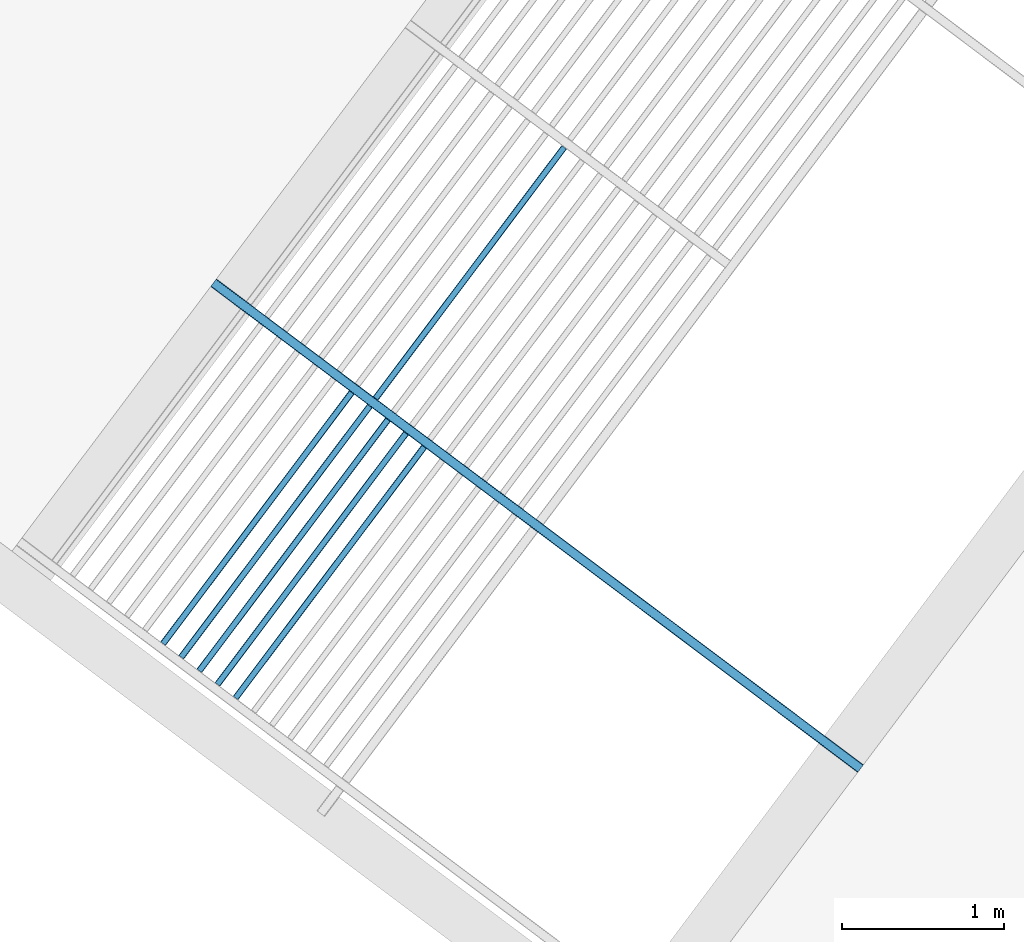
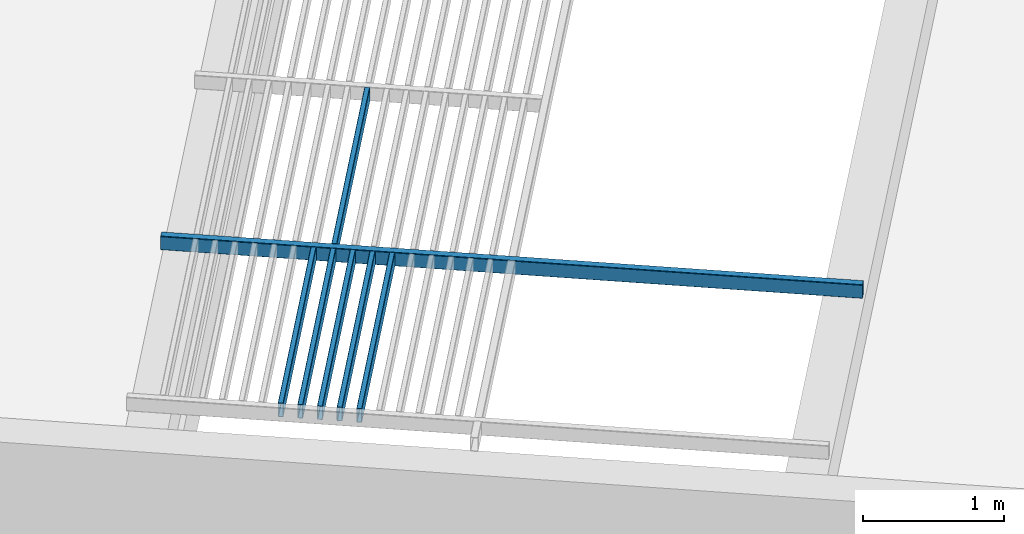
# One storey, part 50 of 95: 7 beams.
"""IFC2X3 building model written with IfcOpenShell, lengths in metres."""

from ifc_helpers import new_model, entity, si_unit, converted_unit, derived_unit, direction, frame, frame_2d, origin, place, context, subcontext, project, spatial, polyline, circle_curve, parameter, trimmed, segment, composite_curve, outline, extrude, material, type_object, element, save


model = new_model("IFC2X3")

# Units and contexts
model_context = context("Model", 3, precision=1e-05, world=origin(), true_north=direction((6.123031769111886e-17, 1.0)))
body_context = subcontext(model_context, "Body", "Model", "MODEL_VIEW")
ifc_project = project(units=[si_unit("LENGTHUNIT", "METRE"), si_unit("AREAUNIT", "SQUARE_METRE"), si_unit("VOLUMEUNIT", "CUBIC_METRE"), converted_unit("PLANEANGLEUNIT", "DEGREE", entity("IfcRatioMeasure", 0.017453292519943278), si_unit("PLANEANGLEUNIT", "RADIAN"), dimensions=[0, 0, 0, 0, 0, 0, 0]), si_unit("MASSUNIT", "GRAM", prefix="KILO"), derived_unit("MASSDENSITYUNIT", [(si_unit("MASSUNIT", "GRAM", prefix="KILO"), 1), (si_unit("LENGTHUNIT", "METRE"), -3)]), derived_unit("IONCONCENTRATIONUNIT", [(si_unit("MASSUNIT", "GRAM", prefix="KILO"), 1), (si_unit("LENGTHUNIT", "METRE"), -3)]), derived_unit("MOMENTOFINERTIAUNIT", [(si_unit("LENGTHUNIT", "METRE"), 4)]), si_unit("TIMEUNIT", "SECOND"), si_unit("FREQUENCYUNIT", "HERTZ"), si_unit("THERMODYNAMICTEMPERATUREUNIT", "DEGREE_CELSIUS"), derived_unit("THERMALTRANSMITTANCEUNIT", [(si_unit("MASSUNIT", "GRAM", prefix="KILO"), 1), (si_unit("THERMODYNAMICTEMPERATUREUNIT", "KELVIN"), -1), (si_unit("TIMEUNIT", "SECOND"), -3)]), derived_unit("THERMALCONDUCTANCEUNIT", [(si_unit("MASSUNIT", "GRAM", prefix="KILO"), 1), (si_unit("THERMODYNAMICTEMPERATUREUNIT", "KELVIN"), -1), (si_unit("TIMEUNIT", "SECOND"), -3), (si_unit("LENGTHUNIT", "METRE"), 1)]), derived_unit("VOLUMETRICFLOWRATEUNIT", [(si_unit("LENGTHUNIT", "METRE"), 3), (si_unit("TIMEUNIT", "SECOND"), -1)]), derived_unit("MASSFLOWRATEUNIT", [(si_unit("MASSUNIT", "GRAM", prefix="KILO"), 1), (si_unit("TIMEUNIT", "SECOND"), -1)]), derived_unit("ROTATIONALFREQUENCYUNIT", [(si_unit("TIMEUNIT", "SECOND"), -1)]), si_unit("ELECTRICCURRENTUNIT", "AMPERE"), si_unit("ELECTRICVOLTAGEUNIT", "VOLT"), si_unit("POWERUNIT", "WATT"), si_unit("FORCEUNIT", "NEWTON", prefix="KILO"), si_unit("ILLUMINANCEUNIT", "LUX"), si_unit("LUMINOUSFLUXUNIT", "LUMEN"), si_unit("LUMINOUSINTENSITYUNIT", "CANDELA"), derived_unit("USERDEFINED", [(si_unit("MASSUNIT", "GRAM", prefix="KILO"), -1), (si_unit("LENGTHUNIT", "METRE"), -2), (si_unit("TIMEUNIT", "SECOND"), 3), (si_unit("LUMINOUSFLUXUNIT", "LUMEN"), 1)]), derived_unit("USERDEFINED", [(si_unit("MASSUNIT", "GRAM", prefix="KILO"), 1), (si_unit("TIMEUNIT", "SECOND"), -3), (si_unit("LENGTHUNIT", "METRE"), 3), (si_unit("ELECTRICCURRENTUNIT", "AMPERE"), -2)]), derived_unit("SOUNDPOWERUNIT", [(si_unit("MASSUNIT", "GRAM", prefix="KILO"), 1), (si_unit("TIMEUNIT", "SECOND"), -3), (si_unit("LENGTHUNIT", "METRE"), 2)]), derived_unit("SOUNDPRESSUREUNIT", [(si_unit("MASSUNIT", "GRAM", prefix="KILO"), 1), (si_unit("LENGTHUNIT", "METRE"), -1), (si_unit("TIMEUNIT", "SECOND"), -2)]), derived_unit("LINEARVELOCITYUNIT", [(si_unit("LENGTHUNIT", "METRE"), 1), (si_unit("TIMEUNIT", "SECOND"), -1)]), si_unit("PRESSUREUNIT", "PASCAL"), derived_unit("USERDEFINED", [(si_unit("MASSUNIT", "GRAM", prefix="KILO"), 1), (si_unit("LENGTHUNIT", "METRE"), -2), (si_unit("TIMEUNIT", "SECOND"), -2)]), derived_unit("LINEARFORCEUNIT", [(si_unit("MASSUNIT", "GRAM", prefix="KILO"), 1), (si_unit("TIMEUNIT", "SECOND"), -2)]), derived_unit("PLANARFORCEUNIT", [(si_unit("MASSUNIT", "GRAM", prefix="KILO"), 1), (si_unit("LENGTHUNIT", "METRE"), -1), (si_unit("TIMEUNIT", "SECOND"), -2)]), derived_unit("SPECIFICHEATCAPACITYUNIT", [(si_unit("THERMODYNAMICTEMPERATUREUNIT", "KELVIN"), -1), (si_unit("LENGTHUNIT", "METRE"), 2), (si_unit("TIMEUNIT", "SECOND"), -2)]), derived_unit("HEATINGVALUEUNIT", [(si_unit("LENGTHUNIT", "METRE"), 2), (si_unit("TIMEUNIT", "SECOND"), -2)]), derived_unit("VAPORPERMEABILITYUNIT", [(si_unit("LENGTHUNIT", "METRE"), -1), (si_unit("TIMEUNIT", "SECOND"), 1)]), derived_unit("DYNAMICVISCOSITYUNIT", [(si_unit("MASSUNIT", "GRAM", prefix="KILO"), 1), (si_unit("TIMEUNIT", "SECOND"), -1), (si_unit("LENGTHUNIT", "METRE"), -1)]), derived_unit("THERMALEXPANSIONCOEFFICIENTUNIT", [(si_unit("THERMODYNAMICTEMPERATUREUNIT", "KELVIN"), -1)]), derived_unit("MODULUSOFELASTICITYUNIT", [(si_unit("MASSUNIT", "GRAM", prefix="KILO"), 1), (si_unit("LENGTHUNIT", "METRE"), -1), (si_unit("TIMEUNIT", "SECOND"), -2)]), derived_unit("ISOTHERMALMOISTURECAPACITYUNIT", [(si_unit("LENGTHUNIT", "METRE"), 3), (si_unit("MASSUNIT", "GRAM", prefix="KILO"), -1)]), derived_unit("MOISTUREDIFFUSIVITYUNIT", [(si_unit("TIMEUNIT", "SECOND"), -1), (si_unit("LENGTHUNIT", "METRE"), 2)])], contexts=[model_context])

# Site, building, storey
site_placement = place(None, origin())
site = spatial("IfcSite", under=ifc_project, at=site_placement, Name="Default", CompositionType="ELEMENT")
building_placement = place(site_placement, frame((0.0, 0.0, 235.0), z_axis=(0.0, 0.0, 1.0), x_axis=(-0.7996477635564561, 0.6004693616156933, 0.0)))
building = spatial("IfcBuilding", under=site, at=building_placement, CompositionType="ELEMENT")
storey_placement = place(building_placement, frame((0.0, 0.0, 3.400000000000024)))
storey = spatial("IfcBuildingStorey", under=building, at=storey_placement, Name="PC- Coberta STR", CompositionType="ELEMENT", Elevation=3.400000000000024)

# Beams
ifc_material = material(Name="_Acer- STR")
beam_type_1 = type_object("IfcBeamType", Name="STR- V- Acer- RHS- Rectangular- T1:120x60RHS", PredefinedType="NOTDEFINED")
beam_1_placement = place(storey_placement, frame((61.745147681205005, -20.44678703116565, 0.49840472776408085), z_axis=(0.0, 0.0, 1.0), x_axis=(-1.0, 0.0, 0.0)))
element("IfcBeam", 1, at=beam_1_placement, inside=storey, type_object=beam_type_1, material=ifc_material, Name="STR- V- Acer- RHS- Rectangular- T1:120x60RHS", ObjectType="STR- V- Acer- RHS- Rectangular- T1:120x60RHS", context=body_context, shape_type="SweptSolid", body=[
    extrude(outline(composite_curve([segment(trimmed(circle_curve(frame_2d((-0.02199999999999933, -0.05200000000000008), x_axis=(1.0, 0.0)), 0.008), [parameter(180.0000000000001)], [parameter(269.99999999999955)], True, "PARAMETER"), True, "CONTINUOUS"), segment(polyline([(-0.022000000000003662, -0.05999999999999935), (0.021999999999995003, -0.05999999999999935)]), True, "CONTINUOUS"), segment(trimmed(circle_curve(frame_2d((0.021999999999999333, -0.05200000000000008), x_axis=(1.0, 0.0)), 0.008), [parameter(269.99999999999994)], [parameter(5.088887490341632e-14)], True, "PARAMETER"), True, "CONTINUOUS"), segment(polyline([(0.029999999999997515, -0.05199999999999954), (0.029999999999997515, 0.052000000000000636)]), True, "CONTINUOUS"), segment(trimmed(circle_curve(frame_2d((0.021999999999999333, 0.052000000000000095), x_axis=(1.0, 0.0)), 0.008), [parameter(359.99999999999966)], [parameter(89.99999999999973)], True, "PARAMETER"), True, "CONTINUOUS"), segment(polyline([(0.021999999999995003, 0.06000000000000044), (-0.022000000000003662, 0.06000000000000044)]), True, "CONTINUOUS"), segment(trimmed(circle_curve(frame_2d((-0.02199999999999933, 0.052000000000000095), x_axis=(1.0, 0.0)), 0.008), [parameter(90.00000000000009)], [parameter(180.00000000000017)], True, "PARAMETER"), True, "CONTINUOUS"), segment(polyline([(-0.03000000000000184, 0.052000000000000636), (-0.03000000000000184, -0.05199999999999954)]), True, "CONTINUOUS")], self_intersect=False), holes=[composite_curve([segment(polyline([(0.021999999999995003, -0.056000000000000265), (-0.022000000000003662, -0.056000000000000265)]), True, "CONTINUOUS"), segment(trimmed(circle_curve(frame_2d((-0.02199999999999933, -0.05200000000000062), x_axis=(1.0, 0.0)), 0.004), [parameter(179.99999999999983)], [parameter(269.9999999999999)], True, "PARAMETER"), False, "CONTINUOUS"), segment(polyline([(-0.02600000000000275, -0.05200000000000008), (-0.02600000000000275, 0.051999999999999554)]), True, "CONTINUOUS"), segment(trimmed(circle_curve(frame_2d((-0.02199999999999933, 0.05199999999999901), x_axis=(1.0, 0.0)), 0.004), [parameter(90.00000000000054)], [parameter(180.00000000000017)], True, "PARAMETER"), False, "CONTINUOUS"), segment(polyline([(-0.022000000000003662, 0.055999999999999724), (0.021999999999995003, 0.055999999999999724)]), True, "CONTINUOUS"), segment(trimmed(circle_curve(frame_2d((0.021999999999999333, 0.05199999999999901), x_axis=(1.0, 0.0)), 0.004), [parameter(0.0)], [parameter(90.00000000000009)], True, "PARAMETER"), False, "CONTINUOUS"), segment(polyline([(0.02599999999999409, 0.051999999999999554), (0.02599999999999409, -0.05200000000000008)]), True, "CONTINUOUS"), segment(trimmed(circle_curve(frame_2d((0.021999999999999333, -0.05200000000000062), x_axis=(1.0, 0.0)), 0.004), [parameter(270.00000000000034)], [parameter(3.5622212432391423e-13)], True, "PARAMETER"), False, "CONTINUOUS")], self_intersect=False)]), frame((-5.0, -0.03159527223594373, 0.061595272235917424), z_axis=(1.0, 0.0, 0.0), x_axis=(0.0, -1.0, 0.0)), (0.0, 0.0, 1.0), 5.000000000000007),
])
beam_type_2 = type_object("IfcBeamType", Name="STR- V- Acer- RHS- Rectangular- T1:120x40RHS -", PredefinedType="NOTDEFINED")
beam_2_placement = place(storey_placement, frame((65.49355240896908, -22.38519175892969, 0.4984047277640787), z_axis=(0.0, 0.0, 1.0), x_axis=(0.0, -1.0, 0.0)))
element("IfcBeam", 2, at=beam_2_placement, inside=storey, type_object=beam_type_2, material=ifc_material, Name="STR- V- Acer- RHS- Rectangular- T1:120x40RHS -", ObjectType="STR- V- Acer- RHS- Rectangular- T1:120x40RHS -", context=body_context, shape_type="SweptSolid", body=[
    extrude(outline(composite_curve([segment(trimmed(circle_curve(frame_2d((-0.014000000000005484, -0.053999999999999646), x_axis=(1.0, 0.0)), 0.006), [parameter(180.0000000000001)], [parameter(269.99999999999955)], True, "PARAMETER"), True, "CONTINUOUS"), segment(polyline([(-0.014000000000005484, -0.0599999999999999), (0.013999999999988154, -0.0599999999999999)]), True, "CONTINUOUS"), segment(trimmed(circle_curve(frame_2d((0.013999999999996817, -0.053999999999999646), x_axis=(1.0, 0.0)), 0.006), [parameter(269.99999999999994)], [parameter(1.0177774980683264e-13)], True, "PARAMETER"), True, "CONTINUOUS"), segment(polyline([(0.019999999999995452, -0.053999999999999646), (0.019999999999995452, 0.05400000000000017)]), True, "CONTINUOUS"), segment(trimmed(circle_curve(frame_2d((0.013999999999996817, 0.05400000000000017), x_axis=(1.0, 0.0)), 0.006), [parameter(359.9999999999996)], [parameter(89.99999999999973)], True, "PARAMETER"), True, "CONTINUOUS"), segment(polyline([(0.013999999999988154, 0.059999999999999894), (-0.014000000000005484, 0.059999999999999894)]), True, "CONTINUOUS"), segment(trimmed(circle_curve(frame_2d((-0.014000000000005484, 0.05400000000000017), x_axis=(1.0, 0.0)), 0.006), [parameter(90.00000000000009)], [parameter(180.00000000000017)], True, "PARAMETER"), True, "CONTINUOUS"), segment(polyline([(-0.020000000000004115, 0.05400000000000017), (-0.020000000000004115, -0.05400000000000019)]), True, "CONTINUOUS")], self_intersect=False), holes=[composite_curve([segment(polyline([(0.013999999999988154, -0.05700000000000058), (-0.014000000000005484, -0.05700000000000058)]), True, "CONTINUOUS"), segment(trimmed(circle_curve(frame_2d((-0.014000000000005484, -0.05400000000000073), x_axis=(1.0, 0.0)), 0.003), [parameter(179.99999999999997)], [parameter(269.9999999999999)], True, "PARAMETER"), False, "CONTINUOUS"), segment(polyline([(-0.0170000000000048, -0.05400000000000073), (-0.0170000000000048, 0.05399999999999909)]), True, "CONTINUOUS"), segment(trimmed(circle_curve(frame_2d((-0.014000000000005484, 0.05399999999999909), x_axis=(1.0, 0.0)), 0.003), [parameter(90.00000000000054)], [parameter(180.0000000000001)], True, "PARAMETER"), False, "CONTINUOUS"), segment(polyline([(-0.014000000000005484, 0.056999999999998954), (0.013999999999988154, 0.056999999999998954)]), True, "CONTINUOUS"), segment(trimmed(circle_curve(frame_2d((0.013999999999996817, 0.05399999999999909), x_axis=(1.0, 0.0)), 0.003), [parameter(0.0)], [parameter(90.00000000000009)], True, "PARAMETER"), False, "CONTINUOUS"), segment(polyline([(0.016999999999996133, 0.05399999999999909), (0.016999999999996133, -0.05400000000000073)]), True, "CONTINUOUS"), segment(trimmed(circle_curve(frame_2d((0.013999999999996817, -0.05400000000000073), x_axis=(1.0, 0.0)), 0.003), [parameter(270.00000000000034)], [parameter(3.053332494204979e-13)], True, "PARAMETER"), False, "CONTINUOUS")], self_intersect=False)]), frame((-1.9399999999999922, 0.021595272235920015, 0.06159527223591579), z_axis=(1.0, 0.0, 0.0), x_axis=(0.0, -1.0, 0.0)), (0.0, 0.0, 1.0), 1.9399999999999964),
])
beam_3_placement = place(storey_placement, frame((65.63355240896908, -20.385189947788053, 0.4984047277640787), z_axis=(0.0, 0.0, 1.0), x_axis=(0.0, -1.0, 0.0)))
element("IfcBeam", 3, at=beam_3_placement, inside=storey, type_object=beam_type_2, material=ifc_material, Name="STR- V- Acer- RHS- Rectangular- T1:120x40RHS -", ObjectType="STR- V- Acer- RHS- Rectangular- T1:120x40RHS -", context=body_context, shape_type="SweptSolid", body=[
    extrude(outline(composite_curve([segment(trimmed(circle_curve(frame_2d((-0.01400000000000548, -0.053999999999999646), x_axis=(1.0, 0.0)), 0.006), [parameter(180.0000000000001)], [parameter(269.99999999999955)], True, "PARAMETER"), True, "CONTINUOUS"), segment(polyline([(-0.01400000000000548, -0.0599999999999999), (0.013999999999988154, -0.0599999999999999)]), True, "CONTINUOUS"), segment(trimmed(circle_curve(frame_2d((0.013999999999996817, -0.053999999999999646), x_axis=(1.0, 0.0)), 0.006), [parameter(269.99999999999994)], [parameter(1.0177774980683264e-13)], True, "PARAMETER"), True, "CONTINUOUS"), segment(polyline([(0.019999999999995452, -0.053999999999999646), (0.019999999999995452, 0.05400000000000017)]), True, "CONTINUOUS"), segment(trimmed(circle_curve(frame_2d((0.013999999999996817, 0.05400000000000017), x_axis=(1.0, 0.0)), 0.006), [parameter(359.9999999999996)], [parameter(89.99999999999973)], True, "PARAMETER"), True, "CONTINUOUS"), segment(polyline([(0.013999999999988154, 0.059999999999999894), (-0.01400000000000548, 0.059999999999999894)]), True, "CONTINUOUS"), segment(trimmed(circle_curve(frame_2d((-0.01400000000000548, 0.05400000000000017), x_axis=(1.0, 0.0)), 0.006), [parameter(90.00000000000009)], [parameter(180.00000000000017)], True, "PARAMETER"), True, "CONTINUOUS"), segment(polyline([(-0.02000000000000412, 0.05400000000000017), (-0.02000000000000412, -0.05400000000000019)]), True, "CONTINUOUS")], self_intersect=False), holes=[composite_curve([segment(polyline([(0.013999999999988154, -0.05700000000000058), (-0.01400000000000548, -0.05700000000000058)]), True, "CONTINUOUS"), segment(trimmed(circle_curve(frame_2d((-0.01400000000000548, -0.05400000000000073), x_axis=(1.0, 0.0)), 0.003), [parameter(179.99999999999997)], [parameter(269.9999999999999)], True, "PARAMETER"), False, "CONTINUOUS"), segment(polyline([(-0.017000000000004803, -0.05400000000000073), (-0.017000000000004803, 0.05399999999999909)]), True, "CONTINUOUS"), segment(trimmed(circle_curve(frame_2d((-0.01400000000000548, 0.05399999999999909), x_axis=(1.0, 0.0)), 0.003), [parameter(90.00000000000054)], [parameter(180.0000000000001)], True, "PARAMETER"), False, "CONTINUOUS"), segment(polyline([(-0.01400000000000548, 0.056999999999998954), (0.013999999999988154, 0.056999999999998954)]), True, "CONTINUOUS"), segment(trimmed(circle_curve(frame_2d((0.013999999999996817, 0.05399999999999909), x_axis=(1.0, 0.0)), 0.003), [parameter(0.0)], [parameter(90.00000000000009)], True, "PARAMETER"), False, "CONTINUOUS"), segment(polyline([(0.016999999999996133, 0.05399999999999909), (0.016999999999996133, -0.05400000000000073)]), True, "CONTINUOUS"), segment(trimmed(circle_curve(frame_2d((0.013999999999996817, -0.05400000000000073), x_axis=(1.0, 0.0)), 0.003), [parameter(270.00000000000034)], [parameter(3.053332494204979e-13)], True, "PARAMETER"), False, "CONTINUOUS")], self_intersect=False)]), frame((-1.940000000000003, 0.02159527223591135, 0.06159527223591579), z_axis=(1.0, 0.0, 0.0), x_axis=(0.0, -1.0, 0.0)), (0.0, 0.0, 1.0), 1.9400000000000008),
])
beam_4_placement = place(storey_placement, frame((65.49355240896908, -20.385189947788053, 0.4984047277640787), z_axis=(0.0, 0.0, 1.0), x_axis=(0.0, -1.0, 0.0)))
element("IfcBeam", 4, at=beam_4_placement, inside=storey, type_object=beam_type_2, material=ifc_material, Name="STR- V- Acer- RHS- Rectangular- T1:120x40RHS -", ObjectType="STR- V- Acer- RHS- Rectangular- T1:120x40RHS -", context=body_context, shape_type="SweptSolid", body=[
    extrude(outline(composite_curve([segment(trimmed(circle_curve(frame_2d((-0.014000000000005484, -0.053999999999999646), x_axis=(1.0, 0.0)), 0.006), [parameter(180.0000000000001)], [parameter(269.99999999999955)], True, "PARAMETER"), True, "CONTINUOUS"), segment(polyline([(-0.014000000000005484, -0.0599999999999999), (0.013999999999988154, -0.0599999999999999)]), True, "CONTINUOUS"), segment(trimmed(circle_curve(frame_2d((0.013999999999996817, -0.053999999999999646), x_axis=(1.0, 0.0)), 0.006), [parameter(269.99999999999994)], [parameter(1.0177774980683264e-13)], True, "PARAMETER"), True, "CONTINUOUS"), segment(polyline([(0.019999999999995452, -0.053999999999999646), (0.019999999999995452, 0.05400000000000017)]), True, "CONTINUOUS"), segment(trimmed(circle_curve(frame_2d((0.013999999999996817, 0.05400000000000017), x_axis=(1.0, 0.0)), 0.006), [parameter(359.9999999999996)], [parameter(89.99999999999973)], True, "PARAMETER"), True, "CONTINUOUS"), segment(polyline([(0.013999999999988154, 0.059999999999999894), (-0.014000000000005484, 0.059999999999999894)]), True, "CONTINUOUS"), segment(trimmed(circle_curve(frame_2d((-0.014000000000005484, 0.05400000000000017), x_axis=(1.0, 0.0)), 0.006), [parameter(90.00000000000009)], [parameter(180.00000000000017)], True, "PARAMETER"), True, "CONTINUOUS"), segment(polyline([(-0.020000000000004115, 0.05400000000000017), (-0.020000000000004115, -0.05400000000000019)]), True, "CONTINUOUS")], self_intersect=False), holes=[composite_curve([segment(polyline([(0.013999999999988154, -0.05700000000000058), (-0.014000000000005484, -0.05700000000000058)]), True, "CONTINUOUS"), segment(trimmed(circle_curve(frame_2d((-0.014000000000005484, -0.05400000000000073), x_axis=(1.0, 0.0)), 0.003), [parameter(179.99999999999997)], [parameter(269.9999999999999)], True, "PARAMETER"), False, "CONTINUOUS"), segment(polyline([(-0.0170000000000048, -0.05400000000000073), (-0.0170000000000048, 0.05399999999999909)]), True, "CONTINUOUS"), segment(trimmed(circle_curve(frame_2d((-0.014000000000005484, 0.05399999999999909), x_axis=(1.0, 0.0)), 0.003), [parameter(90.00000000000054)], [parameter(180.0000000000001)], True, "PARAMETER"), False, "CONTINUOUS"), segment(polyline([(-0.014000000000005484, 0.056999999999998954), (0.013999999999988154, 0.056999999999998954)]), True, "CONTINUOUS"), segment(trimmed(circle_curve(frame_2d((0.013999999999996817, 0.05399999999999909), x_axis=(1.0, 0.0)), 0.003), [parameter(0.0)], [parameter(90.00000000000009)], True, "PARAMETER"), False, "CONTINUOUS"), segment(polyline([(0.016999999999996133, 0.05399999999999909), (0.016999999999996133, -0.05400000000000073)]), True, "CONTINUOUS"), segment(trimmed(circle_curve(frame_2d((0.013999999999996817, -0.05400000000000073), x_axis=(1.0, 0.0)), 0.003), [parameter(270.00000000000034)], [parameter(3.053332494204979e-13)], True, "PARAMETER"), False, "CONTINUOUS")], self_intersect=False)]), frame((-1.940000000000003, 0.021595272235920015, 0.06159527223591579), z_axis=(1.0, 0.0, 0.0), x_axis=(0.0, -1.0, 0.0)), (0.0, 0.0, 1.0), 1.9400000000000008),
])
beam_5_placement = place(storey_placement, frame((65.3535524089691, -20.385189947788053, 0.4984047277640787), z_axis=(0.0, 0.0, 1.0), x_axis=(0.0, -1.0, 0.0)))
element("IfcBeam", 5, at=beam_5_placement, inside=storey, type_object=beam_type_2, material=ifc_material, Name="STR- V- Acer- RHS- Rectangular- T1:120x40RHS -", ObjectType="STR- V- Acer- RHS- Rectangular- T1:120x40RHS -", context=body_context, shape_type="SweptSolid", body=[
    extrude(outline(composite_curve([segment(trimmed(circle_curve(frame_2d((-0.01399999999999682, -0.053999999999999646), x_axis=(1.0, 0.0)), 0.006), [parameter(180.0000000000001)], [parameter(269.99999999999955)], True, "PARAMETER"), True, "CONTINUOUS"), segment(polyline([(-0.01399999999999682, -0.0599999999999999), (0.013999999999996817, -0.0599999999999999)]), True, "CONTINUOUS"), segment(trimmed(circle_curve(frame_2d((0.014000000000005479, -0.053999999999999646), x_axis=(1.0, 0.0)), 0.006), [parameter(269.99999999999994)], [parameter(1.0177774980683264e-13)], True, "PARAMETER"), True, "CONTINUOUS"), segment(polyline([(0.020000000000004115, -0.053999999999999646), (0.020000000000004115, 0.05400000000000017)]), True, "CONTINUOUS"), segment(trimmed(circle_curve(frame_2d((0.014000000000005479, 0.05400000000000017), x_axis=(1.0, 0.0)), 0.006), [parameter(359.9999999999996)], [parameter(89.99999999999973)], True, "PARAMETER"), True, "CONTINUOUS"), segment(polyline([(0.013999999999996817, 0.059999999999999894), (-0.01399999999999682, 0.059999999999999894)]), True, "CONTINUOUS"), segment(trimmed(circle_curve(frame_2d((-0.01399999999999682, 0.05400000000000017), x_axis=(1.0, 0.0)), 0.006), [parameter(90.00000000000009)], [parameter(180.00000000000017)], True, "PARAMETER"), True, "CONTINUOUS"), segment(polyline([(-0.019999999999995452, 0.05400000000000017), (-0.019999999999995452, -0.05400000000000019)]), True, "CONTINUOUS")], self_intersect=False), holes=[composite_curve([segment(polyline([(0.013999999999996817, -0.05700000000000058), (-0.01399999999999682, -0.05700000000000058)]), True, "CONTINUOUS"), segment(trimmed(circle_curve(frame_2d((-0.01399999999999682, -0.05400000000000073), x_axis=(1.0, 0.0)), 0.003), [parameter(179.99999999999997)], [parameter(269.9999999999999)], True, "PARAMETER"), False, "CONTINUOUS"), segment(polyline([(-0.016999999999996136, -0.05400000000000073), (-0.016999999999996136, 0.05399999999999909)]), True, "CONTINUOUS"), segment(trimmed(circle_curve(frame_2d((-0.01399999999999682, 0.05399999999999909), x_axis=(1.0, 0.0)), 0.003), [parameter(90.00000000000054)], [parameter(180.0000000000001)], True, "PARAMETER"), False, "CONTINUOUS"), segment(polyline([(-0.01399999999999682, 0.056999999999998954), (0.013999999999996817, 0.056999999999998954)]), True, "CONTINUOUS"), segment(trimmed(circle_curve(frame_2d((0.014000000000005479, 0.05399999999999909), x_axis=(1.0, 0.0)), 0.003), [parameter(0.0)], [parameter(90.00000000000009)], True, "PARAMETER"), False, "CONTINUOUS"), segment(polyline([(0.017000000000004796, 0.05399999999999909), (0.017000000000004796, -0.05400000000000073)]), True, "CONTINUOUS"), segment(trimmed(circle_curve(frame_2d((0.014000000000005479, -0.05400000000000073), x_axis=(1.0, 0.0)), 0.003), [parameter(270.00000000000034)], [parameter(3.053332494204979e-13)], True, "PARAMETER"), False, "CONTINUOUS")], self_intersect=False)]), frame((-1.940000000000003, 0.02159527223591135, 0.06159527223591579), z_axis=(1.0, 0.0, 0.0), x_axis=(0.0, -1.0, 0.0)), (0.0, 0.0, 1.0), 1.9400000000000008),
])
beam_6_placement = place(storey_placement, frame((65.2135524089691, -20.385189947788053, 0.4984047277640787), z_axis=(0.0, 0.0, 1.0), x_axis=(0.0, -1.0, 0.0)))
element("IfcBeam", 6, at=beam_6_placement, inside=storey, type_object=beam_type_2, material=ifc_material, Name="STR- V- Acer- RHS- Rectangular- T1:120x40RHS -", ObjectType="STR- V- Acer- RHS- Rectangular- T1:120x40RHS -", context=body_context, shape_type="SweptSolid", body=[
    extrude(outline(composite_curve([segment(trimmed(circle_curve(frame_2d((-0.01399999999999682, -0.053999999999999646), x_axis=(1.0, 0.0)), 0.006), [parameter(180.0000000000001)], [parameter(269.99999999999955)], True, "PARAMETER"), True, "CONTINUOUS"), segment(polyline([(-0.01399999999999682, -0.0599999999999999), (0.013999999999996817, -0.0599999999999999)]), True, "CONTINUOUS"), segment(trimmed(circle_curve(frame_2d((0.01400000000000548, -0.053999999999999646), x_axis=(1.0, 0.0)), 0.006), [parameter(269.99999999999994)], [parameter(1.0177774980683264e-13)], True, "PARAMETER"), True, "CONTINUOUS"), segment(polyline([(0.020000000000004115, -0.053999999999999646), (0.020000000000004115, 0.05400000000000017)]), True, "CONTINUOUS"), segment(trimmed(circle_curve(frame_2d((0.01400000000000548, 0.05400000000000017), x_axis=(1.0, 0.0)), 0.006), [parameter(359.9999999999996)], [parameter(89.99999999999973)], True, "PARAMETER"), True, "CONTINUOUS"), segment(polyline([(0.013999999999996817, 0.059999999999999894), (-0.01399999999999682, 0.059999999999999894)]), True, "CONTINUOUS"), segment(trimmed(circle_curve(frame_2d((-0.01399999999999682, 0.05400000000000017), x_axis=(1.0, 0.0)), 0.006), [parameter(90.00000000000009)], [parameter(180.00000000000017)], True, "PARAMETER"), True, "CONTINUOUS"), segment(polyline([(-0.019999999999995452, 0.05400000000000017), (-0.019999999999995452, -0.05400000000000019)]), True, "CONTINUOUS")], self_intersect=False), holes=[composite_curve([segment(polyline([(0.013999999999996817, -0.05700000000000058), (-0.01399999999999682, -0.05700000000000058)]), True, "CONTINUOUS"), segment(trimmed(circle_curve(frame_2d((-0.01399999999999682, -0.05400000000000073), x_axis=(1.0, 0.0)), 0.003), [parameter(179.99999999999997)], [parameter(269.9999999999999)], True, "PARAMETER"), False, "CONTINUOUS"), segment(polyline([(-0.016999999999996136, -0.05400000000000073), (-0.016999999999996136, 0.05399999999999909)]), True, "CONTINUOUS"), segment(trimmed(circle_curve(frame_2d((-0.01399999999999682, 0.05399999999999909), x_axis=(1.0, 0.0)), 0.003), [parameter(90.00000000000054)], [parameter(180.0000000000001)], True, "PARAMETER"), False, "CONTINUOUS"), segment(polyline([(-0.01399999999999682, 0.056999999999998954), (0.013999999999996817, 0.056999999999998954)]), True, "CONTINUOUS"), segment(trimmed(circle_curve(frame_2d((0.01400000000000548, 0.05399999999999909), x_axis=(1.0, 0.0)), 0.003), [parameter(0.0)], [parameter(90.00000000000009)], True, "PARAMETER"), False, "CONTINUOUS"), segment(polyline([(0.017000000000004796, 0.05399999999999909), (0.017000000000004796, -0.05400000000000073)]), True, "CONTINUOUS"), segment(trimmed(circle_curve(frame_2d((0.01400000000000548, -0.05400000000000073), x_axis=(1.0, 0.0)), 0.003), [parameter(270.00000000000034)], [parameter(3.053332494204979e-13)], True, "PARAMETER"), False, "CONTINUOUS")], self_intersect=False)]), frame((-1.940000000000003, 0.021595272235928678, 0.06159527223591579), z_axis=(1.0, 0.0, 0.0), x_axis=(0.0, -1.0, 0.0)), (0.0, 0.0, 1.0), 1.9400000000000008),
])
beam_7_placement = place(storey_placement, frame((65.07355240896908, -20.385189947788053, 0.4984047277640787), z_axis=(0.0, 0.0, 1.0), x_axis=(0.0, -1.0, 0.0)))
element("IfcBeam", 7, at=beam_7_placement, inside=storey, type_object=beam_type_2, material=ifc_material, Name="STR- V- Acer- RHS- Rectangular- T1:120x40RHS -", ObjectType="STR- V- Acer- RHS- Rectangular- T1:120x40RHS -", context=body_context, shape_type="SweptSolid", body=[
    extrude(outline(composite_curve([segment(trimmed(circle_curve(frame_2d((-0.01399999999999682, -0.053999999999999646), x_axis=(1.0, 0.0)), 0.006), [parameter(180.0000000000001)], [parameter(269.99999999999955)], True, "PARAMETER"), True, "CONTINUOUS"), segment(polyline([(-0.01399999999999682, -0.0599999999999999), (0.013999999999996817, -0.0599999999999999)]), True, "CONTINUOUS"), segment(trimmed(circle_curve(frame_2d((0.014000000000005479, -0.053999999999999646), x_axis=(1.0, 0.0)), 0.006), [parameter(269.99999999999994)], [parameter(1.0177774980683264e-13)], True, "PARAMETER"), True, "CONTINUOUS"), segment(polyline([(0.020000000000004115, -0.053999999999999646), (0.020000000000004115, 0.05400000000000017)]), True, "CONTINUOUS"), segment(trimmed(circle_curve(frame_2d((0.014000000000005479, 0.05400000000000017), x_axis=(1.0, 0.0)), 0.006), [parameter(359.9999999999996)], [parameter(89.99999999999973)], True, "PARAMETER"), True, "CONTINUOUS"), segment(polyline([(0.013999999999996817, 0.059999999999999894), (-0.01399999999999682, 0.059999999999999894)]), True, "CONTINUOUS"), segment(trimmed(circle_curve(frame_2d((-0.01399999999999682, 0.05400000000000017), x_axis=(1.0, 0.0)), 0.006), [parameter(90.00000000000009)], [parameter(180.00000000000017)], True, "PARAMETER"), True, "CONTINUOUS"), segment(polyline([(-0.019999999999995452, 0.05400000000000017), (-0.019999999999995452, -0.05400000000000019)]), True, "CONTINUOUS")], self_intersect=False), holes=[composite_curve([segment(polyline([(0.013999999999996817, -0.05700000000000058), (-0.01399999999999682, -0.05700000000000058)]), True, "CONTINUOUS"), segment(trimmed(circle_curve(frame_2d((-0.01399999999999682, -0.05400000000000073), x_axis=(1.0, 0.0)), 0.003), [parameter(179.99999999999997)], [parameter(269.9999999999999)], True, "PARAMETER"), False, "CONTINUOUS"), segment(polyline([(-0.016999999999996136, -0.05400000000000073), (-0.016999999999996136, 0.05399999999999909)]), True, "CONTINUOUS"), segment(trimmed(circle_curve(frame_2d((-0.01399999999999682, 0.05399999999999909), x_axis=(1.0, 0.0)), 0.003), [parameter(90.00000000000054)], [parameter(180.0000000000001)], True, "PARAMETER"), False, "CONTINUOUS"), segment(polyline([(-0.01399999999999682, 0.056999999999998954), (0.013999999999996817, 0.056999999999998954)]), True, "CONTINUOUS"), segment(trimmed(circle_curve(frame_2d((0.014000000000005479, 0.05399999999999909), x_axis=(1.0, 0.0)), 0.003), [parameter(0.0)], [parameter(90.00000000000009)], True, "PARAMETER"), False, "CONTINUOUS"), segment(polyline([(0.017000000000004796, 0.05399999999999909), (0.017000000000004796, -0.05400000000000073)]), True, "CONTINUOUS"), segment(trimmed(circle_curve(frame_2d((0.014000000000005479, -0.05400000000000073), x_axis=(1.0, 0.0)), 0.003), [parameter(270.00000000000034)], [parameter(3.053332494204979e-13)], True, "PARAMETER"), False, "CONTINUOUS")], self_intersect=False)]), frame((-1.940000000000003, 0.02159527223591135, 0.06159527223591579), z_axis=(1.0, 0.0, 0.0), x_axis=(0.0, -1.0, 0.0)), (0.0, 0.0, 1.0), 1.9400000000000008),
])

save(model, "model.ifc")
